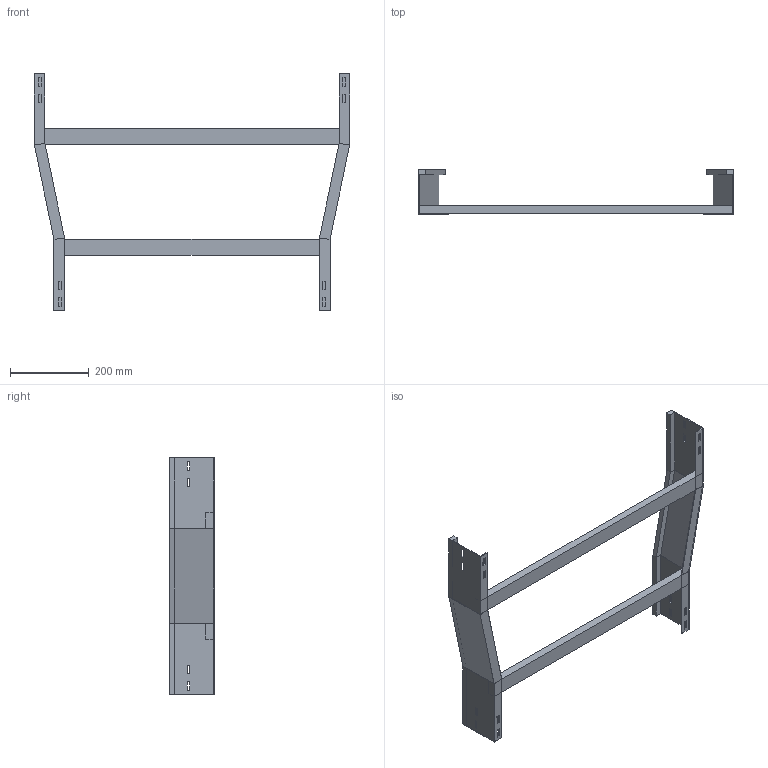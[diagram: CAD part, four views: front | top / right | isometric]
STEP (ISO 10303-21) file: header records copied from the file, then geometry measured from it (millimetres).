
FILE_DESCRIPTION (( 'STEP AP214' ), '1' );
FILE_NAME ('B2X20B7J800XX.step', '2025-09-02T17:15:31', ( '' ), ( '' ), 'SwSTEP 2.0', 'SolidWorks 2023', '' );
FILE_SCHEMA (( 'AUTOMOTIVE_DESIGN' ));
Length unit declared in the file: millimetre
Products named in the file (4): SPONDA RID. CENTRALE 800-700_H112.5; TRAVERSINO_800; B2X20B7J800XX; TRAVERSINO_700
Assembly tree (3 placements, depth 2):
  B2X20B7J800XX
    SPONDA RID. CENTRALE 800-700_H112.5
    TRAVERSINO_700
    TRAVERSINO_800
Bounding box: 800 x 112.5 x 600 mm (x, y, z)
Volume: 1768804.9 mm3; surface area: 558973.2 mm2
Topology: 4 solids, 4 shells, 128 faces, 328 edges, 208 vertices
Faces by surface type: plane 128
Entity records: 3950 total; most frequent: CARTESIAN_POINT 670, ORIENTED_EDGE 656, DIRECTION 596, LINE 328, VECTOR 328, EDGE_CURVE 328, VERTEX_POINT 208, EDGE_LOOP 160
